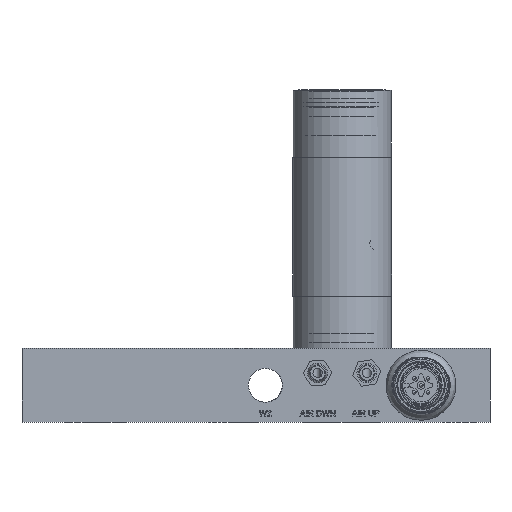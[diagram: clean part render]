
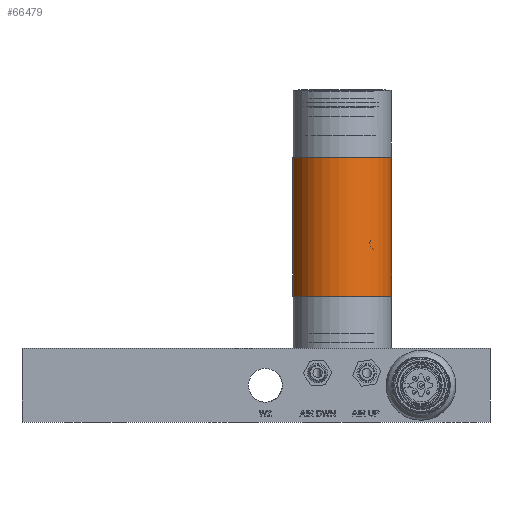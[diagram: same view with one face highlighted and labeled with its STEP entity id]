
A CAD part, front view. The second image highlights one B-rep face of the part: STEP entity #66479.
In plain terms, the highlighted cylindrical face has radius 12.827 mm (diameter 25.654 mm), a full revolution.
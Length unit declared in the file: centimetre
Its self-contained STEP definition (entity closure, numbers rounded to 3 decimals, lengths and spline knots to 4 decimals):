
#4149=CYLINDRICAL_SURFACE('',#72402,1.2827);
#7495=FACE_OUTER_BOUND('',#11678,.T.);
#11678=EDGE_LOOP('',(#54737,#54738,#54739,#54740));
#19724=CIRCLE('',#72403,1.2827);
#19725=CIRCLE('',#72404,1.2827);
#21343=LINE('',#179124,#23513);
#23513=VECTOR('',#84469,1.2827);
#28769=VERTEX_POINT('',#179121);
#28770=VERTEX_POINT('',#179123);
#37691=EDGE_CURVE('',#28769,#28769,#19724,.T.);
#37692=EDGE_CURVE('',#28769,#28770,#21343,.T.);
#37693=EDGE_CURVE('',#28770,#28770,#19725,.T.);
#54737=ORIENTED_EDGE('',*,*,#37691,.T.);
#54738=ORIENTED_EDGE('',*,*,#37692,.T.);
#54739=ORIENTED_EDGE('',*,*,#37693,.F.);
#54740=ORIENTED_EDGE('',*,*,#37692,.F.);
#66479=ADVANCED_FACE('',(#7495),#4149,.T.);
#72402=AXIS2_PLACEMENT_3D('',#179120,#84465,#84466);
#72403=AXIS2_PLACEMENT_3D('',#179122,#84467,#84468);
#72404=AXIS2_PLACEMENT_3D('',#179125,#84470,#84471);
#84465=DIRECTION('center_axis',(0.,0.,
1.));
#84466=DIRECTION('ref_axis',(0.97,-0.245,0.));
#84467=DIRECTION('center_axis',(0.,0.,
-1.));
#84468=DIRECTION('ref_axis',(0.97,-0.245,0.));
#84469=DIRECTION('',(0.,0.,-1.));
#84470=DIRECTION('center_axis',(0.,0.,
-1.));
#84471=DIRECTION('ref_axis',(0.97,-0.245,0.));
#179120=CARTESIAN_POINT('Origin',(0.,0.,
3.2513));
#179121=CARTESIAN_POINT('',(-1.2437,0.3139,6.8327));
#179122=CARTESIAN_POINT('Origin',(0.,0.,
6.8327));
#179123=CARTESIAN_POINT('',(-1.2437,0.3139,3.2513));
#179124=CARTESIAN_POINT('',(-1.2437,0.3139,3.2513));
#179125=CARTESIAN_POINT('Origin',(0.,0.,
3.2513));
